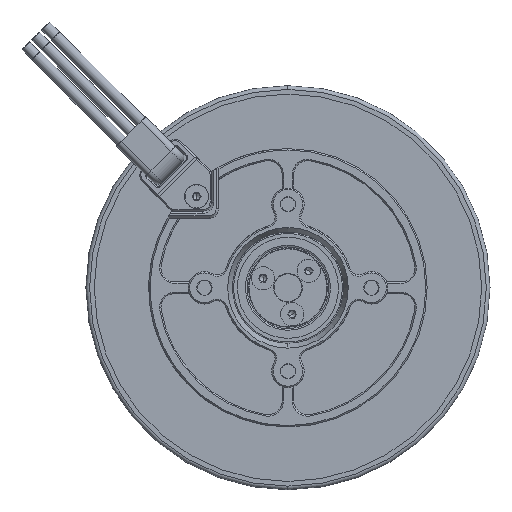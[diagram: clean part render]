
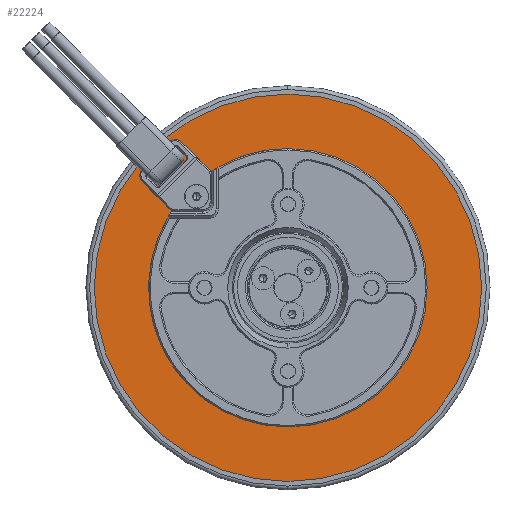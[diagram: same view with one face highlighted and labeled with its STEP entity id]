
A CAD part, front view. The second image highlights one B-rep face of the part: STEP entity #22224.
In plain terms, the highlighted planar face has unit normal (0, -1, 0).
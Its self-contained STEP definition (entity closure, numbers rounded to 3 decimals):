
#2323 = CIRCLE ( 'NONE', #62486, 30. ) ;
#4645 = VERTEX_POINT ( 'NONE', #93624 ) ;
#7670 = CIRCLE ( 'NONE', #106695, 30. ) ;
#20221 = CARTESIAN_POINT ( 'NONE',  ( 0., -0.9, 42.25 ) ) ;
#22224 = ADVANCED_FACE ( 'NONE', ( #26773, #34707 ), #109457, .F. ) ;
#23577 = AXIS2_PLACEMENT_3D ( 'NONE', #62039, #110645, #24987 ) ;
#24140 = DIRECTION ( 'NONE',  ( 0., 1., 0. ) ) ;
#24987 = DIRECTION ( 'NONE',  ( 0., 0., 1. ) ) ;
#26773 = FACE_BOUND ( 'NONE', #100954, .T. ) ;
#28784 = CIRCLE ( 'NONE', #106184, 42.25 ) ;
#31199 = ORIENTED_EDGE ( 'NONE', *, *, #48234, .F. ) ;
#33878 = DIRECTION ( 'NONE',  ( 0., 0., 1. ) ) ;
#34476 = CARTESIAN_POINT ( 'NONE',  ( 0., -0.9, 0. ) ) ;
#34707 = FACE_OUTER_BOUND ( 'NONE', #79837, .T. ) ;
#35890 = DIRECTION ( 'NONE',  ( 0., 0., 1. ) ) ;
#43207 = CARTESIAN_POINT ( 'NONE',  ( 0., -0.9, 0. ) ) ;
#43583 = DIRECTION ( 'NONE',  ( 0., 1., 0. ) ) ;
#48234 = EDGE_CURVE ( 'NONE', #4645, #88239, #2323, .T. ) ;
#52888 = VERTEX_POINT ( 'NONE', #53467 ) ;
#53467 = CARTESIAN_POINT ( 'NONE',  ( 0., -0.9, -42.25 ) ) ;
#62039 = CARTESIAN_POINT ( 'NONE',  ( 0., -0.9, 0. ) ) ;
#62486 = AXIS2_PLACEMENT_3D ( 'NONE', #97221, #115482, #86326 ) ;
#69864 = ORIENTED_EDGE ( 'NONE', *, *, #109874, .F. ) ;
#70338 = CARTESIAN_POINT ( 'NONE',  ( 0., -0.9, 0. ) ) ;
#76055 = VERTEX_POINT ( 'NONE', #20221 ) ;
#79837 = EDGE_LOOP ( 'NONE', ( #100623, #97856 ) ) ;
#82048 = AXIS2_PLACEMENT_3D ( 'NONE', #34476, #43583, #33878 ) ;
#86233 = CIRCLE ( 'NONE', #82048, 42.25 ) ;
#86326 = DIRECTION ( 'NONE',  ( 0., 0., 1. ) ) ;
#88239 = VERTEX_POINT ( 'NONE', #118869 ) ;
#89983 = EDGE_CURVE ( 'NONE', #76055, #52888, #86233, .T. ) ;
#93624 = CARTESIAN_POINT ( 'NONE',  ( 0., -0.9, -30. ) ) ;
#97221 = CARTESIAN_POINT ( 'NONE',  ( 0., -0.9, 0. ) ) ;
#97856 = ORIENTED_EDGE ( 'NONE', *, *, #89983, .F. ) ;
#98259 = DIRECTION ( 'NONE',  ( 0., 0., 1. ) ) ;
#100623 = ORIENTED_EDGE ( 'NONE', *, *, #102167, .F. ) ;
#100954 = EDGE_LOOP ( 'NONE', ( #69864, #31199 ) ) ;
#102167 = EDGE_CURVE ( 'NONE', #52888, #76055, #28784, .T. ) ;
#106184 = AXIS2_PLACEMENT_3D ( 'NONE', #70338, #24140, #98259 ) ;
#106695 = AXIS2_PLACEMENT_3D ( 'NONE', #43207, #107664, #35890 ) ;
#107664 = DIRECTION ( 'NONE',  ( 0., -1., 0. ) ) ;
#109457 = PLANE ( 'NONE',  #23577 ) ;
#109874 = EDGE_CURVE ( 'NONE', #88239, #4645, #7670, .T. ) ;
#110645 = DIRECTION ( 'NONE',  ( 0., 1., 0. ) ) ;
#115482 = DIRECTION ( 'NONE',  ( 0., -1., 0. ) ) ;
#118869 = CARTESIAN_POINT ( 'NONE',  ( 0., -0.9, 30. ) ) ;
